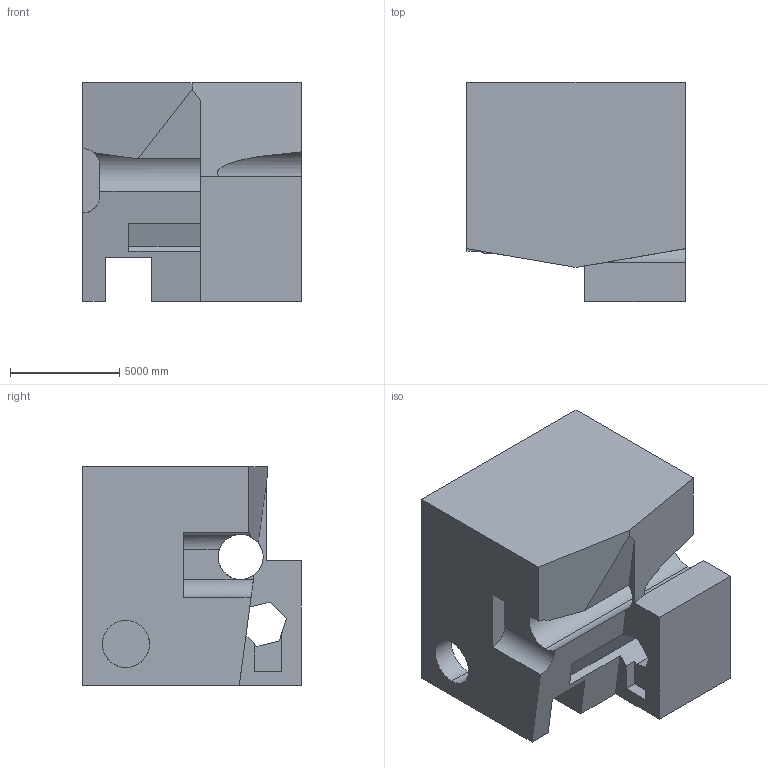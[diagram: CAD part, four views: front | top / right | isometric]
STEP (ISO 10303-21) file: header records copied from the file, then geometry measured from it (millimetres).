
FILE_DESCRIPTION (( 'STEP AP203' ), '1' );
FILE_NAME ('1928.STEP', '2022-08-23T09:35:08', ( 'user' ), ( '' ), 'SwSTEP 2.0', 'SolidWorks 2021', '' );
FILE_SCHEMA (( 'CONFIG_CONTROL_DESIGN' ));
Length unit declared in the file: centimetre
Products named in the file (1): 1928
Bounding box: 10000 x 10000 x 10000 mm (x, y, z)
Volume: 711248205120.5 mm3; surface area: 712939119.5 mm2
Topology: 1 solids, 1 shells, 44 faces, 135 edges, 90 vertices
Faces by surface type: plane 34, cylinder 10
Entity records: 1680 total; most frequent: CARTESIAN_POINT 374, ORIENTED_EDGE 270, DIRECTION 243, EDGE_CURVE 135, LINE 105, VECTOR 105, VERTEX_POINT 90, AXIS2_PLACEMENT_3D 69
